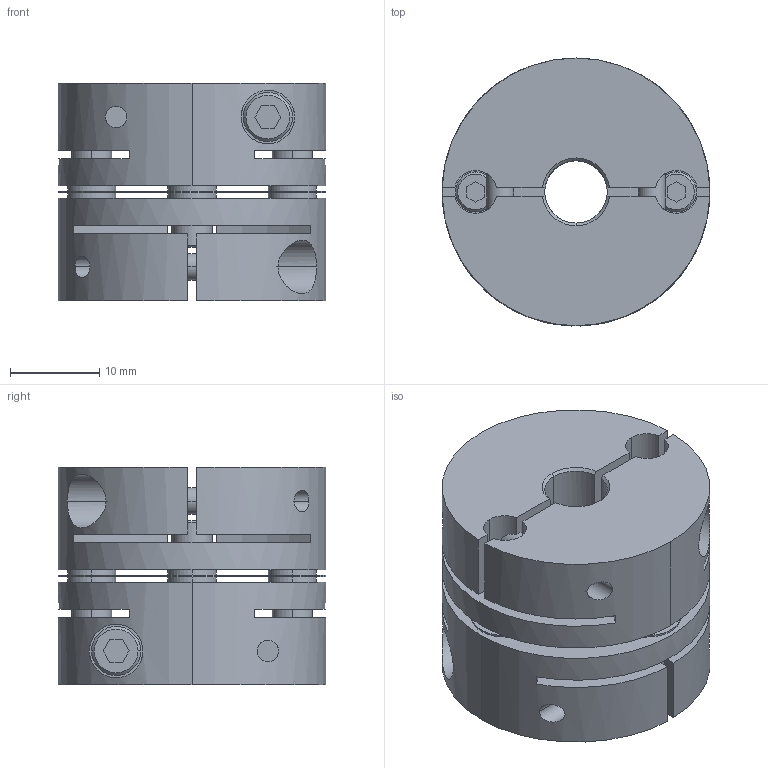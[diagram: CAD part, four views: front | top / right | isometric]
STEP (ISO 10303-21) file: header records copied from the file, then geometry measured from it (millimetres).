
FILE_DESCRIPTION((''),'2;1');
FILE_NAME('LAS-30C-7×7.stp','2011-08-10T13:06:25',(''),(''),'AutoCAD STEP 2000i','AutoCAD 2000i',', , ');
FILE_SCHEMA(('CONFIG_CONTROL_DESIGN'));
Length unit declared in the file: millimetre
Products named in the file (5): LAS-30C-6×6; 忣兜1; LA-3002-D06-1; LA-3002-D06; LAS30-ITA
Assembly tree (4 placements, depth 2):
  LAS-30C-6×6
    忣兜1
    LA-3002-D06-1
    LA-3002-D06
    LAS30-ITA
Bounding box: 30 x 30 x 24.4 mm (x, y, z)
Volume: 13551.7 mm3; surface area: 9239.7 mm2
Topology: 1 solids, 1 shells, 236 faces, 624 edges, 408 vertices
Faces by surface type: plane 112, cylinder 96, cone 28
Entity records: 8139 total; most frequent: CARTESIAN_POINT 1945, DIRECTION 1302, ORIENTED_EDGE 1248, EDGE_CURVE 624, AXIS2_PLACEMENT_3D 477, VERTEX_POINT 408, VECTOR 348, LINE 348
